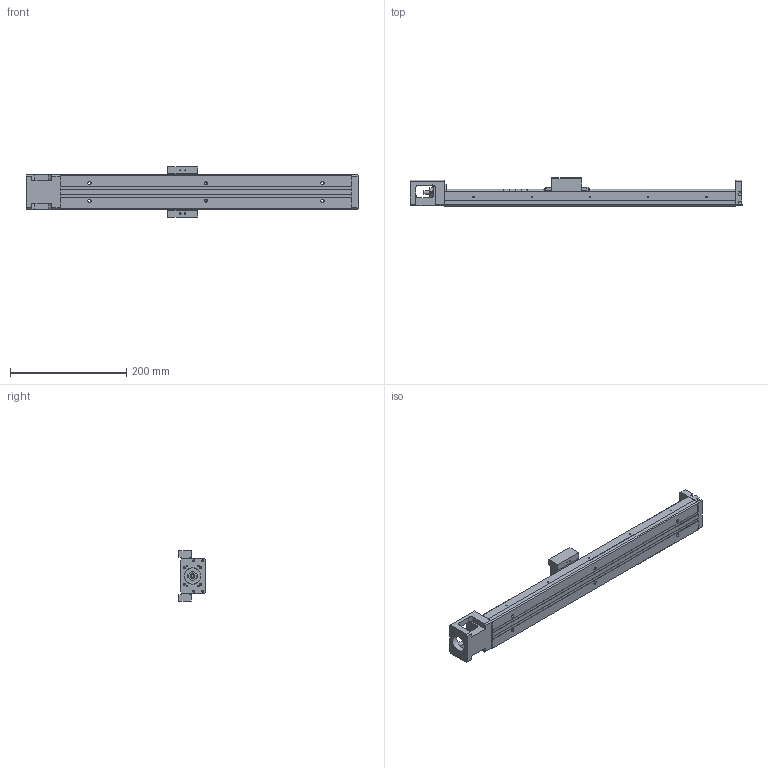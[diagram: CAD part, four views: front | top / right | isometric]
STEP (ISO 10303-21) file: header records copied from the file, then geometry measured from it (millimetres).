
FILE_DESCRIPTION(/* description */ (''),/* implementation_level */ '2;1');
FILE_NAME(/* name */ '33L-500.stp',/* time_stamp */ '2016-12-20T13:29:53+08:00',/* author */ (''),/* organization */ (''),/* preprocessor_version */ 'ST-DEVELOPER v11',/* originating_system */ 'SIEMENS UGS NX 6.0',/* authorisation */ '');
FILE_SCHEMA (('AUTOMOTIVE_DESIGN { 1 0 10303 214 1 1 1 1 }'));
Length unit declared in the file: millimetre
Products named in the file (1): model4
Bounding box: 570 x 47.95 x 86 mm (x, y, z)
Volume: 674256.4 mm3; surface area: 186820.2 mm2
Topology: 6 solids, 15 shells, 701 faces, 1756 edges, 1160 vertices
Faces by surface type: plane 417, cylinder 197, bspline 31, cone 24, extrusion 21, torus 9, revolution 2
Full cylindrical faces by diameter (mm): 1.6 x5, 1.65 x4, 2.15 x5, 2.42 x4, 2.45 x4, 2.5 x18, 3 x3, 3.2 x4, 3.3 x4, 3.4 x3, 3.5 x10, 3.969 x1, 4 x6, 4.001 x1, 4.135 x4, 4.2 x4, 5.5 x6, 6 x5, 7.6 x1, 8 x5, 9.5 x6, 10.72 x3, 11.8 x2, 12 x6, 12.8 x1, 13 x2, 14 x1, 17.38 x3, 21.5 x1, 22 x2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
Entity records: 36066 total; most frequent: CARTESIAN_POINT 16421, DIRECTION 3160, ORIENTED_EDGE 3038, EDGE_CURVE 1519, AXIS2_PLACEMENT_3D 1118, VERTEX_POINT 1083, EDGE_LOOP 994, VECTOR 922
